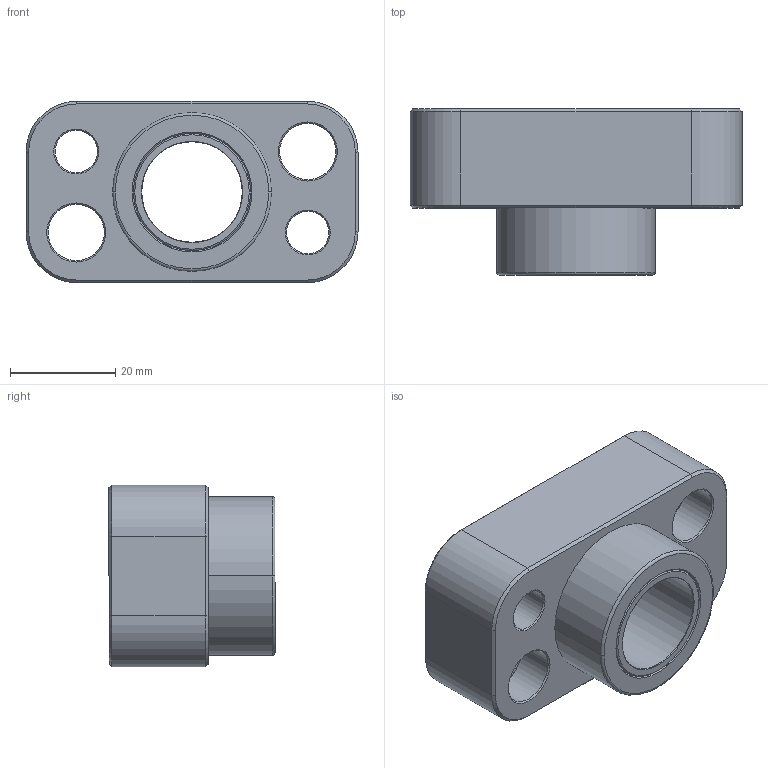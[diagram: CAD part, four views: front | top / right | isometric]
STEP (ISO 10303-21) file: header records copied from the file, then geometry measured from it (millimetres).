
FILE_DESCRIPTION (( 'STEP AP214' ), '1' );
FILE_NAME ('GK75-1-A-M-Base.STEP', '2010-11-16T14:08:00', ( ' ' ), ( '' ), 'SwSTEP 2.0', 'SolidWorks 2010', '' );
FILE_SCHEMA (( 'AUTOMOTIVE_DESIGN' ));
Length unit declared in the file: inch
Products named in the file (3): Bushing-BU-.75ID-1.235Long; Base-GK75-1-A_Base-GK75-1-A-M-Cust; GK75-1-A-M-Base
Assembly tree (2 placements, depth 2):
  GK75-1-A-M-Base
    Base-GK75-1-A_Base-GK75-1-A-M-Cust
    Bushing-BU-.75ID-1.235Long
Bounding box: 62.99 x 31.5 x 34.42 mm (x, y, z)
Volume: 31076.7 mm3; surface area: 16281.7 mm2
Topology: 2 solids, 2 shells, 83 faces, 180 edges, 104 vertices
Faces by surface type: cone 38, cylinder 24, plane 19, torus 2
Entity records: 2440 total; most frequent: DIRECTION 446, CARTESIAN_POINT 372, ORIENTED_EDGE 360, EDGE_CURVE 180, AXIS2_PLACEMENT_3D 178, VERTEX_POINT 104, EDGE_LOOP 98, CIRCLE 90
